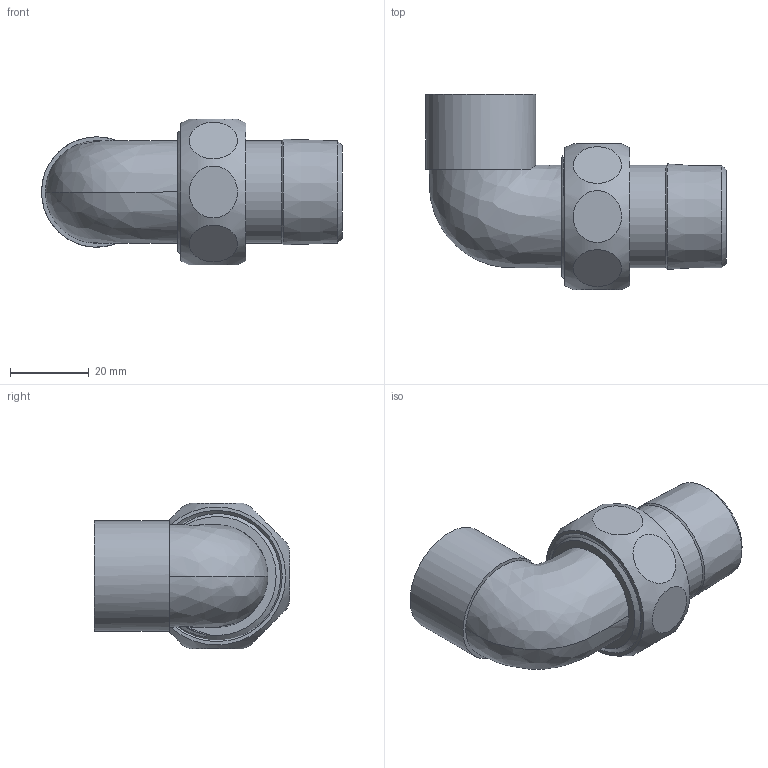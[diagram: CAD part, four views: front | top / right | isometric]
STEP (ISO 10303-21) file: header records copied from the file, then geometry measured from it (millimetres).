
FILE_DESCRIPTION((''),'2;1');
FILE_NAME('C:\Users\gomulka\Desktop\Lohse\140982234\140982234.stp','2014-08-28T09:36:50',('gomulka'),(''),'Autodesk Inventor 2009','Autodesk Inventor 2009','');
FILE_SCHEMA(('AUTOMOTIVE_DESIGN { 1 0 10303 214 1 1 1 1 }'));
Length unit declared in the file: millimetre
Products named in the file (4): 140982234; 1E4098G221; 14382_34-1(3); 14374_1(1)
Assembly tree (3 placements, depth 2):
  140982234
    1E4098G221
    14382_34-1(3)
    14374_1(1)
Bounding box: 76.34 x 49.5 x 37 mm (x, y, z)
Volume: 29817.5 mm3; surface area: 20162.8 mm2
Topology: 3 solids, 3 shells, 53 faces, 125 edges, 89 vertices
Faces by surface type: plane 22, cylinder 16, cone 7, bspline 7, torus 1
Full cylindrical faces by diameter (mm): 22 x1, 26 x1, 27.5 x2, 28 x1, 29.5 x1, 30.291 x1
Entity records: 4518 total; most frequent: CARTESIAN_POINT 3332, ORIENTED_EDGE 214, DIRECTION 194, EDGE_CURVE 107, AXIS2_PLACEMENT_3D 92, VERTEX_POINT 86, EDGE_LOOP 85, FACE_OUTER_BOUND 53
